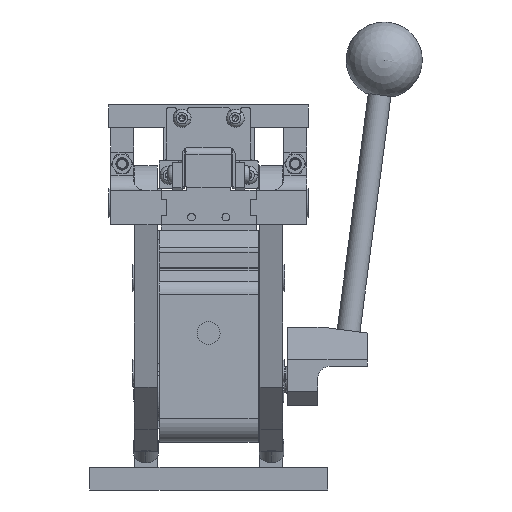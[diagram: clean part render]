
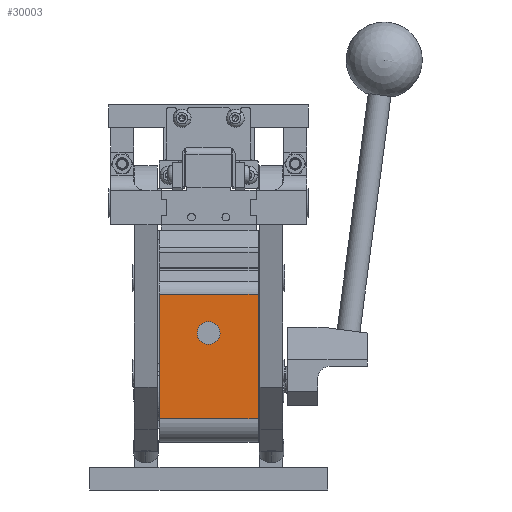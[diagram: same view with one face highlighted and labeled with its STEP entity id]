
A CAD part, left-side view. The second image highlights one B-rep face of the part: STEP entity #30003.
In plain terms, the highlighted planar face has unit normal (-1, 0, 0) as drawn and (0, 1, 0) by its records, which use the part's own axes.
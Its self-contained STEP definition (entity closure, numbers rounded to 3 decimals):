
#255 = ORIENTED_EDGE ( 'NONE', *, *, #11437, .F. ) ;
#737 = CARTESIAN_POINT ( 'NONE',  ( 51.4, 51.5, -26. ) ) ;
#2027 = CARTESIAN_POINT ( 'NONE',  ( -14., 51.5, -26. ) ) ;
#2724 = ORIENTED_EDGE ( 'NONE', *, *, #54167, .F. ) ;
#4484 = DIRECTION ( 'NONE',  ( 0., 0., -1. ) ) ;
#4764 = LINE ( 'NONE', #26188, #29491 ) ;
#5189 = LINE ( 'NONE', #16601, #22723 ) ;
#6164 = EDGE_LOOP ( 'NONE', ( #56551, #39914 ) ) ;
#7543 = VERTEX_POINT ( 'NONE', #14425 ) ;
#8284 = FACE_OUTER_BOUND ( 'NONE', #38990, .T. ) ;
#9633 = DIRECTION ( 'NONE',  ( 0., 0., -1. ) ) ;
#11437 = EDGE_CURVE ( 'NONE', #66286, #12176, #5189, .T. ) ;
#12176 = VERTEX_POINT ( 'NONE', #29088 ) ;
#13877 = VERTEX_POINT ( 'NONE', #62056 ) ;
#14138 = DIRECTION ( 'NONE',  ( 0., -1., 0. ) ) ;
#14425 = CARTESIAN_POINT ( 'NONE',  ( 31., 51.5, -4. ) ) ;
#16601 = CARTESIAN_POINT ( 'NONE',  ( -14., 51.5, 26. ) ) ;
#20711 = DIRECTION ( 'NONE',  ( 0., 1., 0. ) ) ;
#21023 = VECTOR ( 'NONE', #23121, 1000. ) ;
#22723 = VECTOR ( 'NONE', #36654, 1000. ) ;
#23027 = CARTESIAN_POINT ( 'NONE',  ( 31., 51.5, 0. ) ) ;
#23121 = DIRECTION ( 'NONE',  ( 1., 0., 0. ) ) ;
#24193 = FACE_BOUND ( 'NONE', #6164, .T. ) ;
#25100 = VECTOR ( 'NONE', #37096, 1000. ) ;
#26188 = CARTESIAN_POINT ( 'NONE',  ( 51.4, 51.5, 27. ) ) ;
#28640 = ORIENTED_EDGE ( 'NONE', *, *, #41426, .T. ) ;
#29088 = CARTESIAN_POINT ( 'NONE',  ( -14., 51.5, 26. ) ) ;
#29491 = VECTOR ( 'NONE', #36239, 1000. ) ;
#29616 = AXIS2_PLACEMENT_3D ( 'NONE', #68035, #20711, #4484 ) ;
#30003 = ADVANCED_FACE ( 'NONE', ( #24193, #8284 ), #62442, .F. ) ;
#30920 = CARTESIAN_POINT ( 'NONE',  ( -14., 51.5, 27. ) ) ;
#32106 = LINE ( 'NONE', #2027, #21023 ) ;
#32948 = CIRCLE ( 'NONE', #29616, 4. ) ;
#33405 = DIRECTION ( 'NONE',  ( 0., 1., 0. ) ) ;
#34575 = EDGE_CURVE ( 'NONE', #36476, #7543, #32948, .T. ) ;
#35103 = ORIENTED_EDGE ( 'NONE', *, *, #64387, .F. ) ;
#36060 = AXIS2_PLACEMENT_3D ( 'NONE', #23027, #33405, #64445 ) ;
#36239 = DIRECTION ( 'NONE',  ( 0., 0., -1. ) ) ;
#36476 = VERTEX_POINT ( 'NONE', #41931 ) ;
#36654 = DIRECTION ( 'NONE',  ( -1., 0., 0. ) ) ;
#37096 = DIRECTION ( 'NONE',  ( 0., 0., -1. ) ) ;
#38990 = EDGE_LOOP ( 'NONE', ( #2724, #35103, #255, #28640 ) ) ;
#39914 = ORIENTED_EDGE ( 'NONE', *, *, #34575, .F. ) ;
#41426 = EDGE_CURVE ( 'NONE', #66286, #53968, #4764, .T. ) ;
#41931 = CARTESIAN_POINT ( 'NONE',  ( 31., 51.5, 4. ) ) ;
#44826 = CIRCLE ( 'NONE', #36060, 4. ) ;
#51914 = LINE ( 'NONE', #30920, #25100 ) ;
#53968 = VERTEX_POINT ( 'NONE', #737 ) ;
#54167 = EDGE_CURVE ( 'NONE', #13877, #53968, #32106, .T. ) ;
#56551 = ORIENTED_EDGE ( 'NONE', *, *, #64208, .F. ) ;
#57640 = AXIS2_PLACEMENT_3D ( 'NONE', #67656, #14138, #9633 ) ;
#62056 = CARTESIAN_POINT ( 'NONE',  ( -14., 51.5, -26. ) ) ;
#62442 = PLANE ( 'NONE',  #57640 ) ;
#64208 = EDGE_CURVE ( 'NONE', #7543, #36476, #44826, .T. ) ;
#64387 = EDGE_CURVE ( 'NONE', #12176, #13877, #51914, .T. ) ;
#64445 = DIRECTION ( 'NONE',  ( 0., 0., -1. ) ) ;
#66286 = VERTEX_POINT ( 'NONE', #66310 ) ;
#66310 = CARTESIAN_POINT ( 'NONE',  ( 51.4, 51.5, 26. ) ) ;
#67656 = CARTESIAN_POINT ( 'NONE',  ( -14., 51.5, 27. ) ) ;
#68035 = CARTESIAN_POINT ( 'NONE',  ( 31., 51.5, 0. ) ) ;
